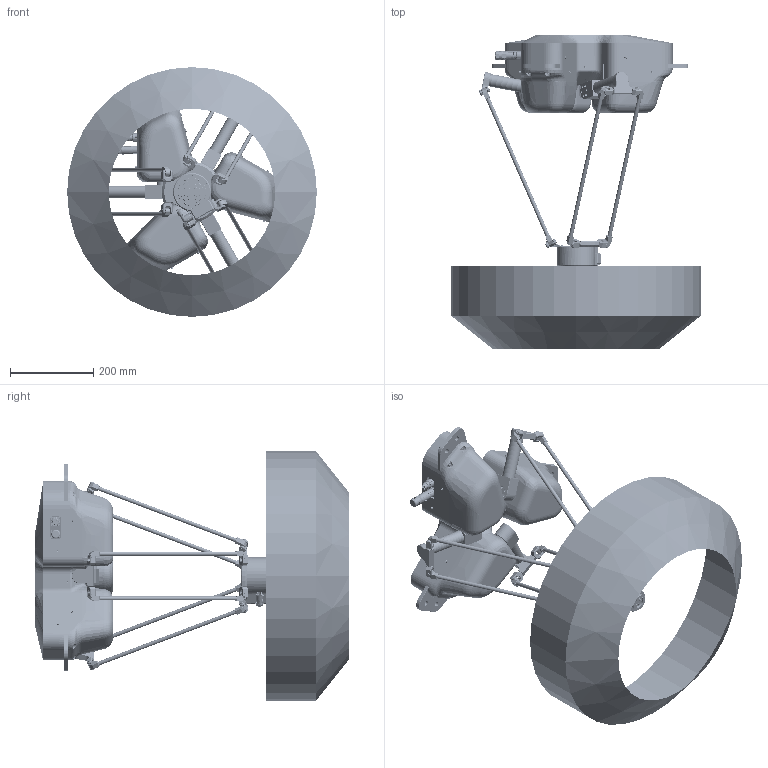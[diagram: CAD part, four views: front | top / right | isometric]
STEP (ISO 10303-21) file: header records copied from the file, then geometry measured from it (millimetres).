
FILE_DESCRIPTION((''),'2;1');
FILE_NAME('ZRC-0306R_STP','2022-05-11T16:19:58',('SonJeongWon'),(''),'CREO PARAMETRIC BY PTC INC, 2020354','CREO PARAMETRIC BY PTC INC, 2020354','');
FILE_SCHEMA(('CONFIG_CONTROL_DESIGN'));
Length unit declared in the file: millimetre
Products named in the file (1): ZRC-0306R_STP
Bounding box: 600 x 755 x 600 mm (x, y, z)
Volume: 3017983.6 mm3; surface area: 1768994.2 mm2
Topology: 24 solids, 37 shells, 6989 faces, 17783 edges, 10931 vertices
Faces by surface type: plane 3270, cylinder 1623, cone 1122, bspline 573, torus 341, extrusion 25, revolution 24, sphere 11
Entity records: 370114 total; most frequent: CARTESIAN_POINT 206827, ORIENTED_EDGE 35242, DIRECTION 32293, EDGE_CURVE 17623, AXIS2_PLACEMENT_3D 11881, VERTEX_POINT 10931, VECTOR 8507, LINE 8482
